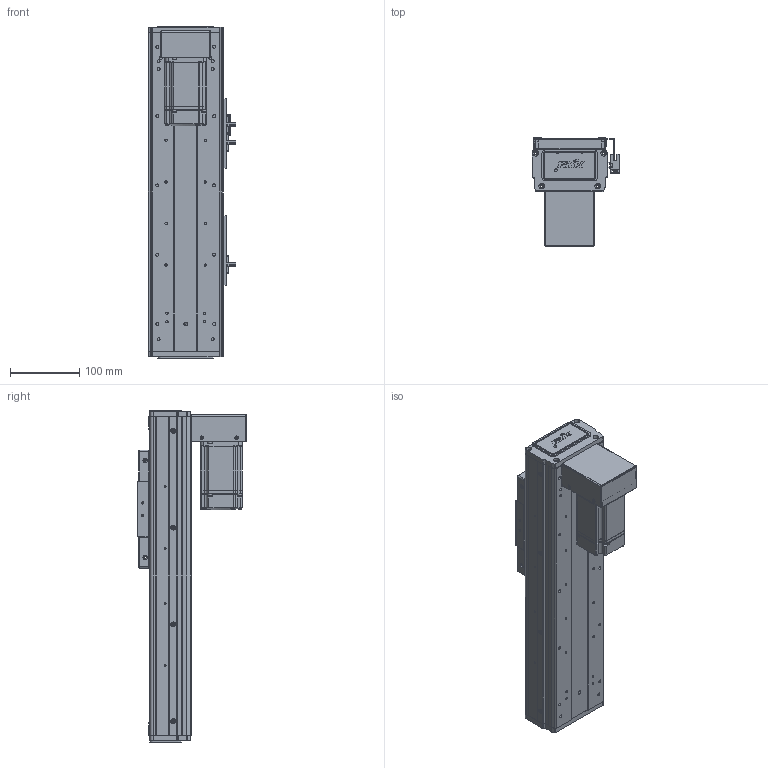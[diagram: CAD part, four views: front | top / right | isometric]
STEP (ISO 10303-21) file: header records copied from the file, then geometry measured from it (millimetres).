
FILE_DESCRIPTION (( 'STEP AP203' ), '1' );
FILE_NAME ('RY100FS-L1620-300-BK(15双轨).SLDASM_200.step', '2021-03-02T07:33:24', ( '盈信电脑' ), ( '东莞市道滘镇水果街19号' ), 'SwSTEP 2.0', 'SolidWorks 2012', '' );
FILE_SCHEMA (( 'CONFIG_CONTROL_DESIGN' ));
Length unit declared in the file: millimetre
Products named in the file (21): 1; RY100FS-L1620-300-BK(15邧寢).SLDASM_200; 滅袉蝶18-15; 蚥薯蝶紫輸; RY100FS-15双轨下折钢带安装板; RY100F-詩湍揤踡輸; RY100FS-双轨螺母座(16丝杆）; RY100FS-15邧寢狟殏萇儂欶; RY100FS-15邧寢狟殏萇儂啣; 覜茼ん672; 672嫖萇羲壽假蚾釱; RY100F-綴裔啣; RY80俋离覜茼え; 棠沺沭; RY100F-詩湍揤踡謫; RY100F-滅鳥裔啣; RY100F-詩湍幗謫粣; RY100FS-双轨铝滑块(上板）; RY100FS-300-BK15絳寢倰第奻裔啣_200; RY100FS-300-BK15邧寢祥凄詩湍_200; RY100FS-300-BK15絳寢倰第菁釱_200
Assembly tree (30 placements, depth 2):
  RY100FS-L1620-300-BK(15邧寢).SLDASM_200
    RY100FS-300-BK15絳寢倰第菁釱_200
    RY100FS-300-BK15絳寢倰第奻裔啣_200  x2
    RY100FS-300-BK15邧寢祥凄詩湍_200
    RY100FS-双轨铝滑块(上板）
    RY100F-滅鳥裔啣
    棠沺沭  x2
    RY100F-詩湍幗謫粣
    RY100F-詩湍揤踡謫  x2
    RY100F-綴裔啣  x2
    672嫖萇羲壽假蚾釱  x2
    RY80俋离覜茼え  x2
    覜茼ん672  x3
    RY100F-詩湍揤踡輸  x2
    RY100FS-双轨螺母座(16丝杆）
    RY100FS-15邧寢狟殏萇儂啣
    RY100FS-15邧寢狟殏萇儂欶
    蚥薯蝶紫輸
    RY100FS-15双轨下折钢带安装板
    滅袉蝶18-15  x2
    1
Bounding box: 126.2 x 158.5 x 479 mm (x, y, z)
Volume: 1592154.6 mm3; surface area: 626088.5 mm2
Topology: 30 solids, 30 shells, 2173 faces, 5880 edges, 3822 vertices
Faces by surface type: plane 1083, cylinder 922, cone 132, bspline 36
Entity records: 57652 total; most frequent: CARTESIAN_POINT 11662, DIRECTION 9135, ORIENTED_EDGE 9000, EDGE_CURVE 4500, AXIS2_PLACEMENT_3D 3191, VERTEX_POINT 2960, VECTOR 2753, LINE 2753
